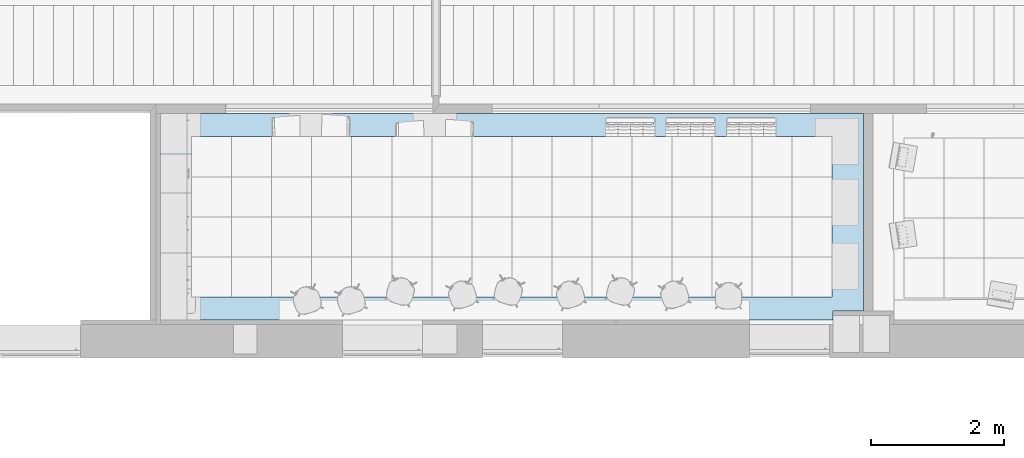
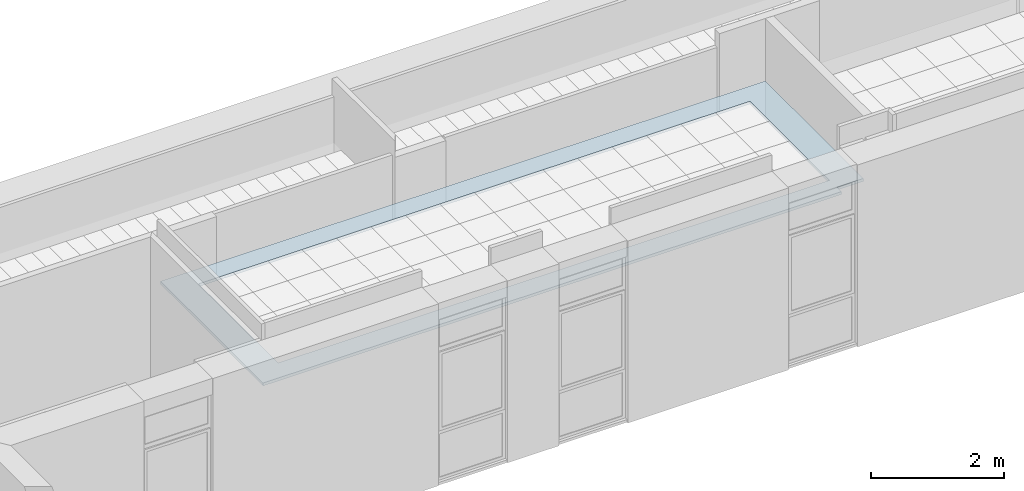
# One storey, part 5 of 60: 1 slab.
"""IFC2X3 building model written with IfcOpenShell, lengths in millimetres."""

from ifc_helpers import new_model, entity, si_unit, converted_unit, derived_unit, money_unit, direction, frame, origin_with_axes, place, context, subcontext, project, spatial, polyline, outline, extrude, material, layer, layer_set, layer_usage, type_object, element, save


model = new_model("IFC2X3")

# Units and contexts
model_context = context("Model", 3, precision=0.01, world=origin_with_axes(), true_north=direction((0.0, 1.0)))
body_context = subcontext(model_context, "Body", "Model", "MODEL_VIEW")
ifc_project = project(units=[si_unit("LENGTHUNIT", "METRE", prefix="MILLI"), si_unit("AREAUNIT", "SQUARE_METRE"), si_unit("VOLUMEUNIT", "CUBIC_METRE"), converted_unit("PLANEANGLEUNIT", "DEGREE", entity("IfcPlaneAngleMeasure", 0.0174532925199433), si_unit("PLANEANGLEUNIT", "RADIAN"), dimensions=[0, 0, 0, 0, 0, 0, 0]), money_unit("USD"), converted_unit("TIMEUNIT", "Year", entity("IfcTimeMeasure", 31557600.0), si_unit("TIMEUNIT", "SECOND"), dimensions=[0, 0, 1, 0, 0, 0, 0]), si_unit("MASSUNIT", "GRAM", prefix="KILO"), si_unit("THERMODYNAMICTEMPERATUREUNIT", "DEGREE_CELSIUS"), si_unit("LUMINOUSINTENSITYUNIT", "LUMEN"), si_unit("ENERGYUNIT", "JOULE", prefix="MEGA"), derived_unit("THERMALCONDUCTANCEUNIT", [(si_unit("POWERUNIT", "WATT"), 1), (si_unit("LENGTHUNIT", "METRE"), -1), (si_unit("THERMODYNAMICTEMPERATUREUNIT", "KELVIN"), -1)]), derived_unit("SPECIFICHEATCAPACITYUNIT", [(si_unit("ENERGYUNIT", "JOULE"), 1), (si_unit("MASSUNIT", "GRAM", prefix="KILO"), -1), (si_unit("THERMODYNAMICTEMPERATUREUNIT", "KELVIN"), -1)]), derived_unit("MASSDENSITYUNIT", [(si_unit("MASSUNIT", "GRAM", prefix="KILO"), 1), (si_unit("VOLUMEUNIT", "CUBIC_METRE"), -1)])], contexts=[model_context])

# Site, building, storey
site_placement = place(None, origin_with_axes())
site = spatial("IfcSite", under=ifc_project, at=site_placement, Name="Sitio", CompositionType="ELEMENT")
building_placement = place(site_placement, origin_with_axes())
building = spatial("IfcBuilding", under=site, at=building_placement, Name="Construcción", CompositionType="ELEMENT")
storey_placement = place(building_placement, frame((0.0, 0.0, 3650.0), z_axis=(0.0, 0.0, 1.0), x_axis=(1.0, 0.0, 0.0)))
storey = spatial("IfcBuildingStorey", under=building, at=storey_placement, Name="PLANTA 2ª", CompositionType="ELEMENT", Elevation=3650.0)

# Slab
ifc_material = material(Name="ARQ_CG064_CelRas_Guix_Continu")
ifc_layer = layer(ifc_material, 53.0, ventilated="UNKNOWN")
ifc_layer_set = layer_set([ifc_layer], Name="ARQ_CG064_CelRas_Guix_Continu 53")
ifc_layer_usage = layer_usage(ifc_layer_set, "AXIS3", "NEGATIVE", 53.0)
slab_type = type_object("IfcSlabType", Name="ARQ_CG064_CelRas_Guix_Continu 53", PredefinedType="NOTDEFINED")
slab_placement = place(storey_placement, frame((-22963.41789761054, -1128.975823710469, 2500.0), z_axis=(0.0, 0.0, 1.0), x_axis=(1.0, 0.0, 0.0)))
element("IfcSlab", 1, at=slab_placement, inside=storey, type_object=slab_type, material=ifc_layer_usage, Name="SLA - 013", PredefinedType="NOTDEFINED", context=body_context, shape_type="SweptSolid", body=[
    extrude(outline(polyline([(0.0, 0.0), (10076.60650496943, 0.0), (10076.60650496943, 132.1706199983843), (10534.5824067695, 132.1706199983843), (10534.5824067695, 3092.530694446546), (0.0, 3092.530694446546), (0.0, 0.0)]), holes=[polyline([(464.9999999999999, 2746.265347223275), (10064.99999999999, 2746.265347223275), (10064.99999999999, 346.2653472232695), (464.9999999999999, 346.2653472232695), (464.9999999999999, 2746.265347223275)])]), frame((0.0, 0.0, -53.0), z_axis=(0.0, 0.0, 1.0), x_axis=(1.0, 0.0, 0.0)), (0.0, 0.0, 1.0), 53.0),
])

save(model, "model.ifc")
